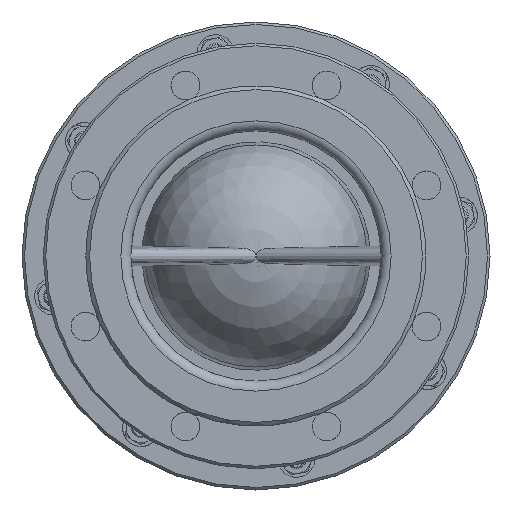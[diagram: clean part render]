
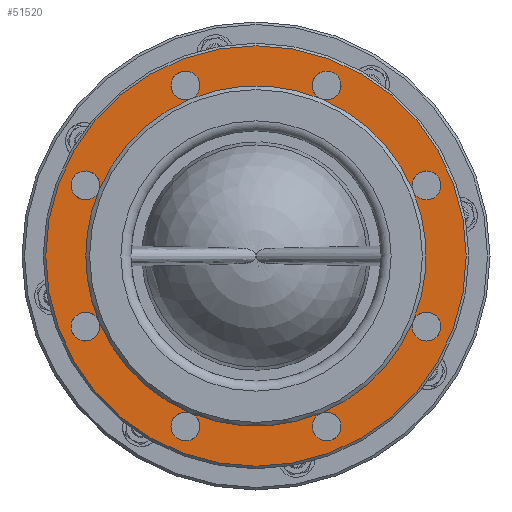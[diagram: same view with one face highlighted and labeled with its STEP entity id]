
A CAD part, front view. The second image highlights one B-rep face of the part: STEP entity #51520.
In plain terms, the highlighted planar face has unit normal (0, -1, 0).
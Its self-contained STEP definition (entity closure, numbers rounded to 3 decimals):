
#4357=CIRCLE('',#54216,136.);
#4358=CIRCLE('',#54217,136.);
#4359=CIRCLE('',#54218,136.);
#4360=CIRCLE('',#54219,136.);
#4361=CIRCLE('',#54220,136.);
#4362=CIRCLE('',#54221,136.);
#4363=CIRCLE('',#54222,136.);
#4364=CIRCLE('',#54223,136.);
#4365=CIRCLE('',#54225,168.);
#4429=CIRCLE('',#54337,11.5);
#4430=CIRCLE('',#54338,11.5);
#4431=CIRCLE('',#54339,11.5);
#4432=CIRCLE('',#54340,11.5);
#4433=CIRCLE('',#54341,11.5);
#4434=CIRCLE('',#54342,11.5);
#4435=CIRCLE('',#54343,11.5);
#4436=CIRCLE('',#54344,11.5);
#7756=ORIENTED_EDGE('',*,*,#16448,.T.);
#7757=ORIENTED_EDGE('',*,*,#16442,.T.);
#7758=ORIENTED_EDGE('',*,*,#16795,.F.);
#7759=ORIENTED_EDGE('',*,*,#16441,.T.);
#7760=ORIENTED_EDGE('',*,*,#16796,.F.);
#7761=ORIENTED_EDGE('',*,*,#16440,.T.);
#7762=ORIENTED_EDGE('',*,*,#16797,.F.);
#7763=ORIENTED_EDGE('',*,*,#16447,.T.);
#7764=ORIENTED_EDGE('',*,*,#16798,.F.);
#7765=ORIENTED_EDGE('',*,*,#16446,.T.);
#7766=ORIENTED_EDGE('',*,*,#16799,.F.);
#7767=ORIENTED_EDGE('',*,*,#16445,.T.);
#7768=ORIENTED_EDGE('',*,*,#16800,.F.);
#7769=ORIENTED_EDGE('',*,*,#16444,.T.);
#7770=ORIENTED_EDGE('',*,*,#16801,.F.);
#7771=ORIENTED_EDGE('',*,*,#16443,.T.);
#7772=ORIENTED_EDGE('',*,*,#16802,.F.);
#16440=EDGE_CURVE('',#21078,#21079,#4357,.T.);
#16441=EDGE_CURVE('',#21080,#21078,#4358,.T.);
#16442=EDGE_CURVE('',#21081,#21080,#4359,.T.);
#16443=EDGE_CURVE('',#21082,#21081,#4360,.T.);
#16444=EDGE_CURVE('',#21083,#21082,#4361,.T.);
#16445=EDGE_CURVE('',#21084,#21083,#4362,.T.);
#16446=EDGE_CURVE('',#21085,#21084,#4363,.T.);
#16447=EDGE_CURVE('',#21079,#21085,#4364,.T.);
#16448=EDGE_CURVE('',#21086,#21086,#4365,.T.);
#16795=EDGE_CURVE('',#21080,#21080,#4429,.T.);
#16796=EDGE_CURVE('',#21078,#21078,#4430,.T.);
#16797=EDGE_CURVE('',#21079,#21079,#4431,.T.);
#16798=EDGE_CURVE('',#21085,#21085,#4432,.T.);
#16799=EDGE_CURVE('',#21084,#21084,#4433,.T.);
#16800=EDGE_CURVE('',#21083,#21083,#4434,.T.);
#16801=EDGE_CURVE('',#21082,#21082,#4435,.T.);
#16802=EDGE_CURVE('',#21081,#21081,#4436,.T.);
#21078=VERTEX_POINT('',#70919);
#21079=VERTEX_POINT('',#70920);
#21080=VERTEX_POINT('',#70922);
#21081=VERTEX_POINT('',#70924);
#21082=VERTEX_POINT('',#70926);
#21083=VERTEX_POINT('',#70928);
#21084=VERTEX_POINT('',#70930);
#21085=VERTEX_POINT('',#70932);
#21086=VERTEX_POINT('',#70936);
#26457=EDGE_LOOP('',(#7756));
#26458=EDGE_LOOP('',(#7757,#7758,#7759,#7760,#7761,#7762,#7763,#7764,#7765,
#7766,#7767,#7768,#7769,#7770,#7771,#7772));
#30079=FACE_BOUND('',#26457,.T.);
#30080=FACE_BOUND('',#26458,.T.);
#33285=PLANE('',#54336);
#51520=ADVANCED_FACE('',(#30079,#30080),#33285,.T.);
#54216=AXIS2_PLACEMENT_3D('',#70918,#58684,#58685);
#54217=AXIS2_PLACEMENT_3D('',#70921,#58686,#58687);
#54218=AXIS2_PLACEMENT_3D('',#70923,#58688,#58689);
#54219=AXIS2_PLACEMENT_3D('',#70925,#58690,#58691);
#54220=AXIS2_PLACEMENT_3D('',#70927,#58692,#58693);
#54221=AXIS2_PLACEMENT_3D('',#70929,#58694,#58695);
#54222=AXIS2_PLACEMENT_3D('',#70931,#58696,#58697);
#54223=AXIS2_PLACEMENT_3D('',#70933,#58698,#58699);
#54225=AXIS2_PLACEMENT_3D('',#70935,#58702,#58703);
#54336=AXIS2_PLACEMENT_3D('',#73755,#58955,#58956);
#54337=AXIS2_PLACEMENT_3D('',#73756,#58957,#58958);
#54338=AXIS2_PLACEMENT_3D('',#73757,#58959,#58960);
#54339=AXIS2_PLACEMENT_3D('',#73758,#58961,#58962);
#54340=AXIS2_PLACEMENT_3D('',#73759,#58963,#58964);
#54341=AXIS2_PLACEMENT_3D('',#73760,#58965,#58966);
#54342=AXIS2_PLACEMENT_3D('',#73761,#58967,#58968);
#54343=AXIS2_PLACEMENT_3D('',#73762,#58969,#58970);
#54344=AXIS2_PLACEMENT_3D('',#73763,#58971,#58972);
#58684=DIRECTION('',(0.,1.,0.));
#58685=DIRECTION('',(-1.,0.,0.));
#58686=DIRECTION('',(0.,1.,0.));
#58687=DIRECTION('',(-1.,0.,0.));
#58688=DIRECTION('',(0.,1.,0.));
#58689=DIRECTION('',(-1.,0.,0.));
#58690=DIRECTION('',(0.,1.,0.));
#58691=DIRECTION('',(-1.,0.,0.));
#58692=DIRECTION('',(0.,1.,0.));
#58693=DIRECTION('',(-1.,0.,0.));
#58694=DIRECTION('',(0.,1.,0.));
#58695=DIRECTION('',(-1.,0.,0.));
#58696=DIRECTION('',(0.,1.,0.));
#58697=DIRECTION('',(-1.,0.,0.));
#58698=DIRECTION('',(0.,1.,0.));
#58699=DIRECTION('',(-1.,0.,0.));
#58702=DIRECTION('',(0.,-1.,0.));
#58703=DIRECTION('',(1.,0.,0.));
#58955=DIRECTION('',(0.,-1.,0.));
#58956=DIRECTION('',(1.,0.,0.));
#58957=DIRECTION('',(0.,-1.,0.));
#58958=DIRECTION('',(1.,0.,0.));
#58959=DIRECTION('',(0.,-1.,0.));
#58960=DIRECTION('',(1.,0.,0.));
#58961=DIRECTION('',(0.,-1.,0.));
#58962=DIRECTION('',(1.,0.,0.));
#58963=DIRECTION('',(0.,-1.,0.));
#58964=DIRECTION('',(1.,0.,0.));
#58965=DIRECTION('',(0.,-1.,0.));
#58966=DIRECTION('',(1.,0.,0.));
#58967=DIRECTION('',(0.,-1.,0.));
#58968=DIRECTION('',(1.,0.,0.));
#58969=DIRECTION('',(0.,-1.,0.));
#58970=DIRECTION('',(1.,0.,0.));
#58971=DIRECTION('',(0.,-1.,0.));
#58972=DIRECTION('',(1.,0.,0.));
#70918=CARTESIAN_POINT('',(0.,-104.5,0.));
#70919=CARTESIAN_POINT('',(-52.045,-104.5,125.648));
#70920=CARTESIAN_POINT('',(52.045,-104.5,125.648));
#70921=CARTESIAN_POINT('',(0.,-104.5,0.));
#70922=CARTESIAN_POINT('',(-125.648,-104.5,52.045));
#70923=CARTESIAN_POINT('',(0.,-104.5,0.));
#70924=CARTESIAN_POINT('',(-125.648,-104.5,-52.045));
#70925=CARTESIAN_POINT('',(0.,-104.5,0.));
#70926=CARTESIAN_POINT('',(-52.045,-104.5,-125.648));
#70927=CARTESIAN_POINT('',(0.,-104.5,0.));
#70928=CARTESIAN_POINT('',(52.045,-104.5,-125.648));
#70929=CARTESIAN_POINT('',(0.,-104.5,0.));
#70930=CARTESIAN_POINT('',(125.648,-104.5,-52.045));
#70931=CARTESIAN_POINT('',(0.,-104.5,0.));
#70932=CARTESIAN_POINT('',(125.648,-104.5,52.045));
#70933=CARTESIAN_POINT('',(0.,-104.5,0.));
#70935=CARTESIAN_POINT('',(0.,-104.5,0.));
#70936=CARTESIAN_POINT('',(168.,-104.5,0.));
#73755=CARTESIAN_POINT('',(-138.5,-104.5,0.));
#73756=CARTESIAN_POINT('',(-136.272,-104.5,56.446));
#73757=CARTESIAN_POINT('',(-56.446,-104.5,136.272));
#73758=CARTESIAN_POINT('',(56.446,-104.5,136.272));
#73759=CARTESIAN_POINT('',(136.272,-104.5,56.446));
#73760=CARTESIAN_POINT('',(136.272,-104.5,-56.446));
#73761=CARTESIAN_POINT('',(56.446,-104.5,-136.272));
#73762=CARTESIAN_POINT('',(-56.446,-104.5,-136.272));
#73763=CARTESIAN_POINT('',(-136.272,-104.5,-56.446));
